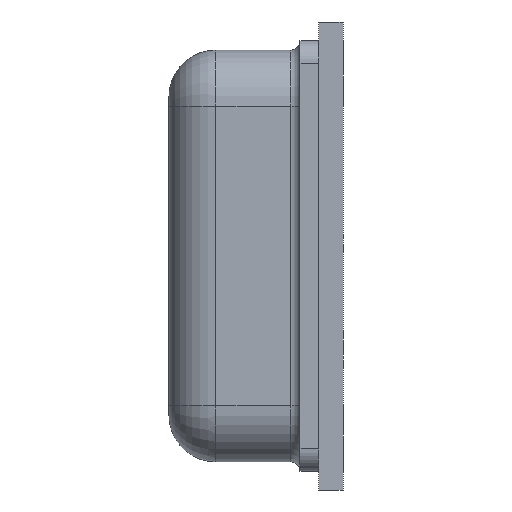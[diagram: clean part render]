
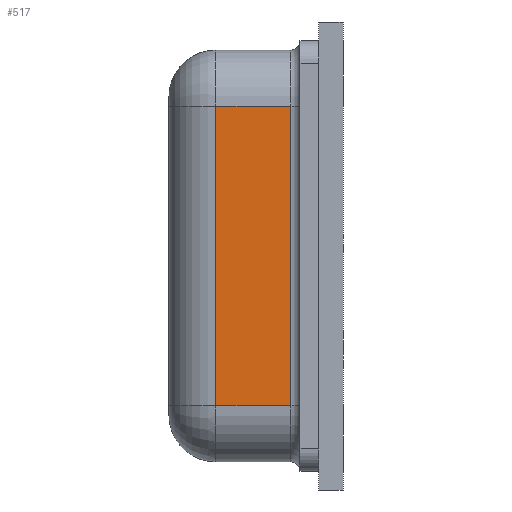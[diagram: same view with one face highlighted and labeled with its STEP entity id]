
A CAD part, left-side view. The second image highlights one B-rep face of the part: STEP entity #517.
In plain terms, the highlighted planar face has unit normal (-1, 0, 0).
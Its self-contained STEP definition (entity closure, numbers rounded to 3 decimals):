
#42 = CARTESIAN_POINT ( 'NONE',  ( -11., 6.8, 8. ) ) ;
#68 = VERTEX_POINT ( 'NONE', #42 ) ;
#117 = DIRECTION ( 'NONE',  ( 1., 0., 0. ) ) ;
#236 = EDGE_CURVE ( 'NONE', #1815, #68, #1413, .T. ) ;
#342 = PLANE ( 'NONE',  #937 ) ;
#517 = ADVANCED_FACE ( 'NONE', ( #2470 ), #342, .F. ) ;
#531 = VECTOR ( 'NONE', #1398, 1000. ) ;
#552 = DIRECTION ( 'NONE',  ( 0., 1., 0. ) ) ;
#576 = VECTOR ( 'NONE', #719, 1000. ) ;
#719 = DIRECTION ( 'NONE',  ( 0., 0., -1. ) ) ;
#734 = CARTESIAN_POINT ( 'NONE',  ( -11., 6.8, -8. ) ) ;
#750 = DIRECTION ( 'NONE',  ( 0., 0., -1. ) ) ;
#751 = VECTOR ( 'NONE', #552, 1000. ) ;
#797 = CARTESIAN_POINT ( 'NONE',  ( -11., 49.713, -11. ) ) ;
#823 = CARTESIAN_POINT ( 'NONE',  ( -11., 2.8, -8. ) ) ;
#896 = CARTESIAN_POINT ( 'NONE',  ( -11., 2.8, 8. ) ) ;
#911 = LINE ( 'NONE', #734, #576 ) ;
#937 = AXIS2_PLACEMENT_3D ( 'NONE', #797, #117, #750 ) ;
#975 = CARTESIAN_POINT ( 'NONE',  ( -11., 49.713, -8. ) ) ;
#1055 = ORIENTED_EDGE ( 'NONE', *, *, #1154, .T. ) ;
#1154 = EDGE_CURVE ( 'NONE', #1509, #1237, #1855, .T. ) ;
#1194 = DIRECTION ( 'NONE',  ( 0., 0., 1. ) ) ;
#1237 = VERTEX_POINT ( 'NONE', #823 ) ;
#1398 = DIRECTION ( 'NONE',  ( 0., -1., 0. ) ) ;
#1413 = LINE ( 'NONE', #1424, #751 ) ;
#1424 = CARTESIAN_POINT ( 'NONE',  ( -11., 49.713, 8. ) ) ;
#1509 = VERTEX_POINT ( 'NONE', #2124 ) ;
#1588 = VECTOR ( 'NONE', #1194, 1000. ) ;
#1815 = VERTEX_POINT ( 'NONE', #896 ) ;
#1855 = LINE ( 'NONE', #975, #531 ) ;
#1880 = LINE ( 'NONE', #2482, #1588 ) ;
#2060 = EDGE_CURVE ( 'NONE', #68, #1509, #911, .T. ) ;
#2102 = ORIENTED_EDGE ( 'NONE', *, *, #236, .T. ) ;
#2124 = CARTESIAN_POINT ( 'NONE',  ( -11., 6.8, -8. ) ) ;
#2175 = ORIENTED_EDGE ( 'NONE', *, *, #2513, .T. ) ;
#2222 = ORIENTED_EDGE ( 'NONE', *, *, #2060, .T. ) ;
#2470 = FACE_OUTER_BOUND ( 'NONE', #2532, .T. ) ;
#2482 = CARTESIAN_POINT ( 'NONE',  ( -11., 2.8, -11. ) ) ;
#2513 = EDGE_CURVE ( 'NONE', #1237, #1815, #1880, .T. ) ;
#2532 = EDGE_LOOP ( 'NONE', ( #2102, #2222, #1055, #2175 ) ) ;
